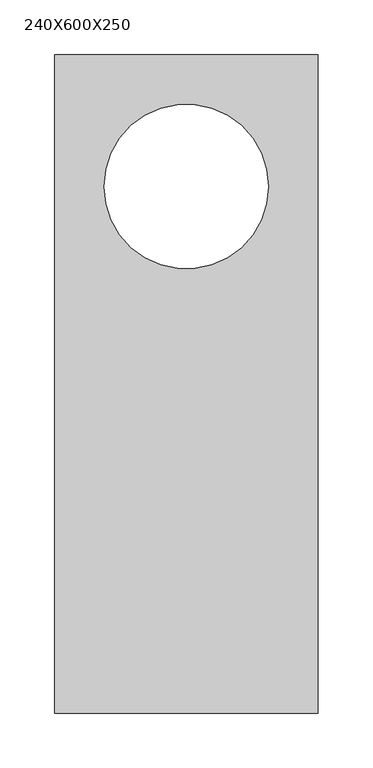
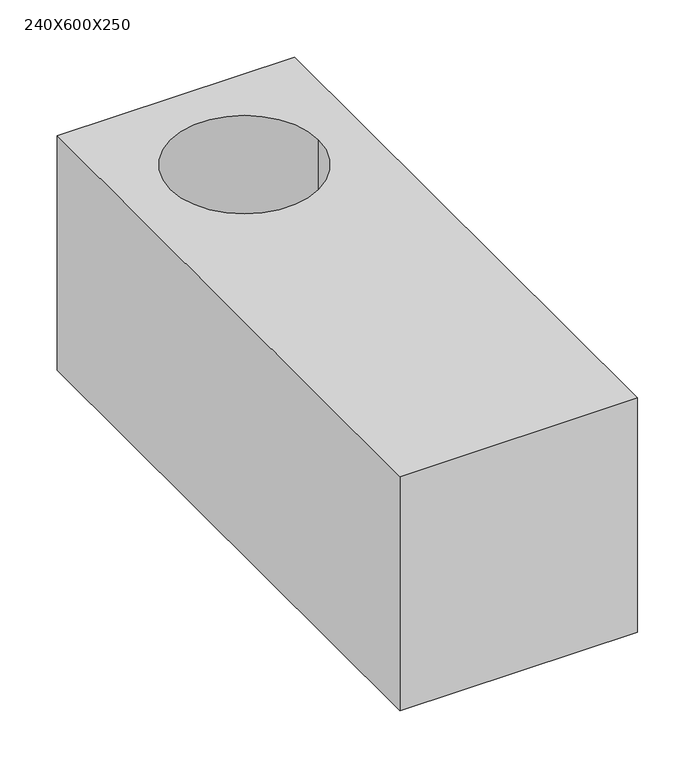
"""IFC4 building model written with IfcOpenShell, lengths in millimetres: plate geometry, GASBETON Evolution Forati : 240X600X250."""

from ifc_helpers import new_model, si_unit, point, frame_2d, origin, origin_with_axes, place, context, project, spatial, polyline, circle_curve, trimmed, segment, composite_curve, outline, extrude, source, transform, mapped, element, save


def plate_240x600x250_e9086dd4(model_context):
    return source(origin(), model_context, "Body", "SweptSolid", [
        extrude(outline(polyline([(120.0, 300.0), (120.0, -300.0), (-120.0, -300.0), (-120.0, 300.0), (120.0, 300.0)]), holes=[composite_curve([segment(trimmed(circle_curve(frame_2d((0.0, 180.0)), 75.0), [point((-75.0, 180.0))], [point((75.0, 180.0))], True, "CARTESIAN"), True, "CONTINUOUS"), segment(trimmed(circle_curve(frame_2d((0.0, 180.0)), 75.0), [point((75.0, 180.0))], [point((-75.0, 180.0))], True, "CARTESIAN"), True, "CONTINUOUS")], self_intersect=False)]), origin_with_axes(), (0.0, 0.0, 1.0), 250.0),
    ])


if __name__ == "__main__":
    model = new_model("IFC4")
    model_context = context("Model", 3, world=origin())
    ifc_project = project(units=[si_unit("LENGTHUNIT", "METRE", prefix="MILLI")], contexts=[model_context])
    site = spatial("IfcSite", under=ifc_project)
    building = spatial("IfcBuilding", under=site)
    placement = place(None, origin())
    plate_240x600x250_shape = plate_240x600x250_e9086dd4(model_context)
    element("IfcPlate", 1, ObjectType="GASBETON Evolution Forati : 240X600X250", at=placement, inside=building, context=model_context, shape_type="MappedRepresentation", body=[
        mapped(plate_240x600x250_shape, transform((0.0, 0.0, 0.0), x_axis=(1.0, 0.0, 0.0), y_axis=(0.0, 1.0, 0.0), z_axis=(0.0, 0.0, 1.0))),
    ])
    save(model, "model.ifc")
